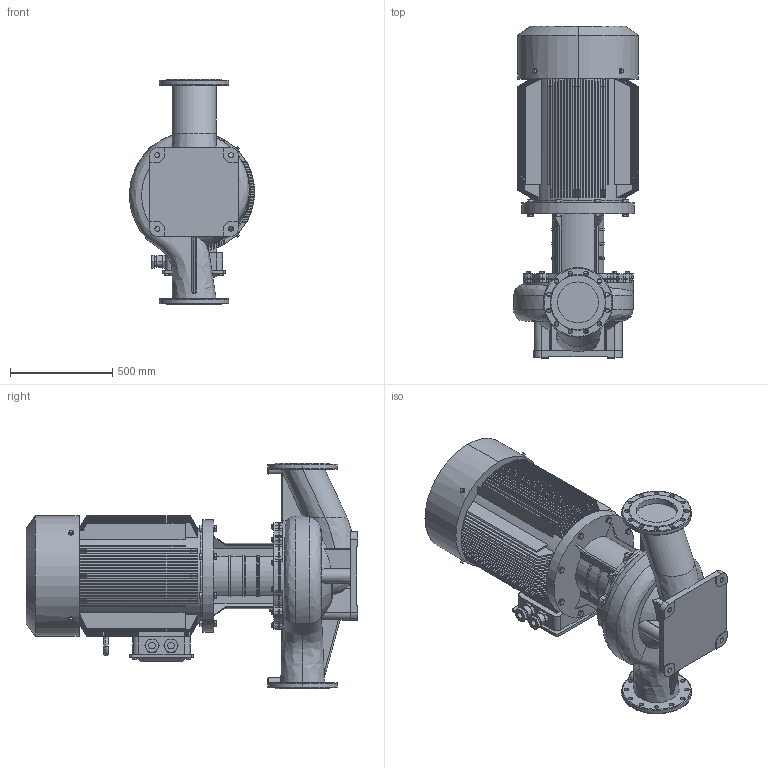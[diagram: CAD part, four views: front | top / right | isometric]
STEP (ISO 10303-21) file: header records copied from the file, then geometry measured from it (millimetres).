
FILE_DESCRIPTION(/* description */ (''),/* implementation_level */ '2;1');
FILE_NAME(/* name */ 'TD200-49-4安装尺寸图.stp',/* time_stamp */ '2026-09-07T16:58:14+08:00',/* author */ (''),/* organization */ (''),/* preprocessor_version */ 'ST-DEVELOPER v16.7',/* originating_system */ 'SIEMENS PLM Software NX 1847',/* authorisation */ '');
FILE_SCHEMA (('AP203_CONFIGURATION_CONTROLLED_3D_DESIGN_OF_MECHANICAL_PARTS_AND_ASSEMBLIES_MIM_LF { 1 0 10303 403 2 1 2}'));
Products named in the file (1): Admi55F8EAC4z5gk
Bounding box: 610.25 x 1621 x 1100 mm (x, y, z)
Volume: 328856008.7 mm3; surface area: 10982915.9 mm2
Topology: 1 solids, 3 shells, 1920 faces, 4766 edges, 2980 vertices
Faces by surface type: plane 756, cylinder 533, cone 498, torus 82, bspline 27, sphere 24
Full cylindrical faces by diameter (mm): 10 x1, 13.682 x12, 17.623 x16, 18 x12, 19.64 x12, 25.34 x8, 390 x1, 410 x1, 550 x1
Entity records: 65210 total; most frequent: CARTESIAN_POINT 21055, ORIENTED_EDGE 9206, DIRECTION 9027, EDGE_CURVE 4603, AXIS2_PLACEMENT_3D 3643, VERTEX_POINT 2925, EDGE_LOOP 2240, ADVANCED_FACE 1920
